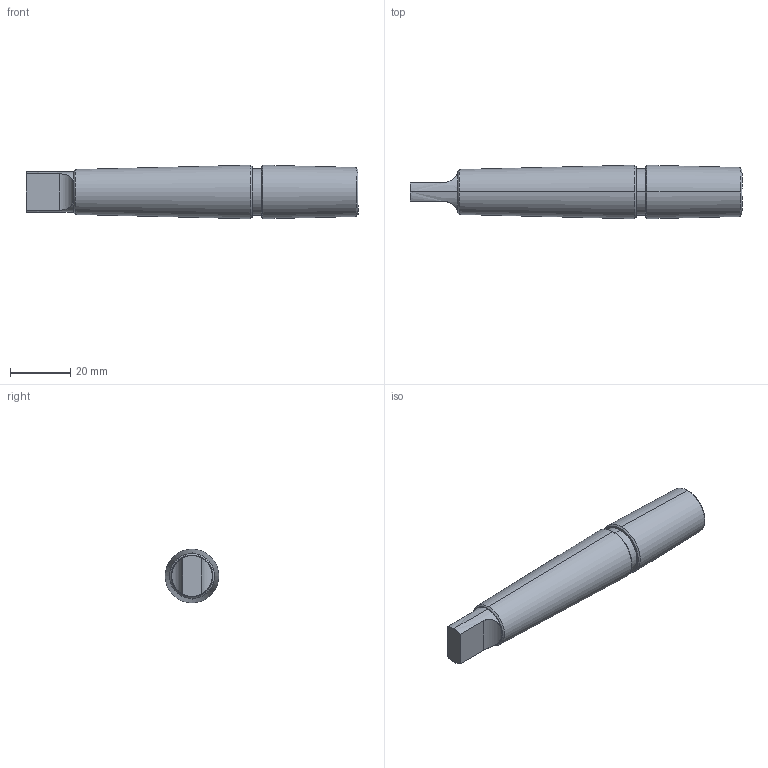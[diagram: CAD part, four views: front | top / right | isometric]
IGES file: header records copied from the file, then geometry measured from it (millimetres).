
Start section: SolidWorks IGES file using analytic representation for surfaces
Global section: file name: R:\Inventor\Kundmodeller Solidworks\Chuckar\042J000046 Taper shank MT2-B18.IGS; native system: SolidWorks 2008; preprocessor: SolidWorks 2008; author: Johan; date: 090903.160427; units: millimetre
Bounding box: 110 x 17.76 x 17.76 mm (x, y, z)
Surface area: 5877.8 mm2 (no closed solid volume)
Topology: 0 solids, 0 shells, 26 faces, 380 edges, 380 vertices
Faces by surface type: revolution 19, bspline 7
